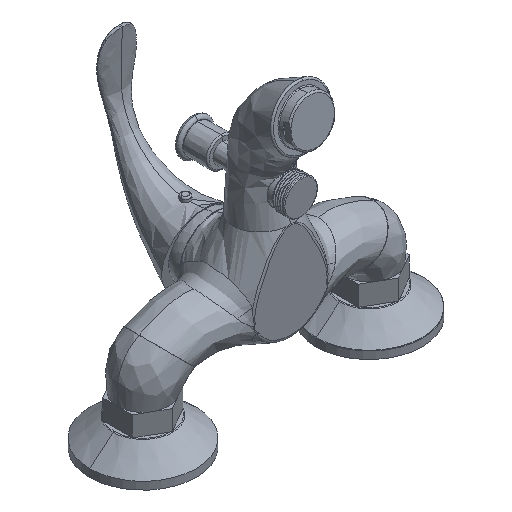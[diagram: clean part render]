
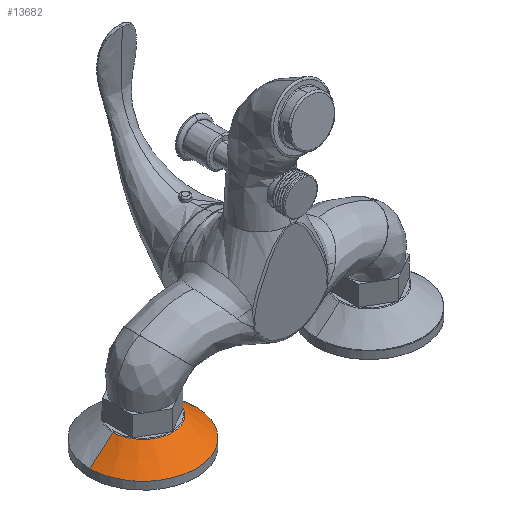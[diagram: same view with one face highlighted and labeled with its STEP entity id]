
A CAD part, isometric view. The second image highlights one B-rep face of the part: STEP entity #13682.
In plain terms, the highlighted conical face has half-angle 50 degrees and reference radius 19.053 mm.
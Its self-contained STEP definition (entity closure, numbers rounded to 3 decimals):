
#1647 = CARTESIAN_POINT ( 'NONE',  ( -182.831, 0., -13.234 ) ) ;
#2114 = AXIS2_PLACEMENT_3D ( 'NONE', #3919, #13086, #13031 ) ;
#2384 = DIRECTION ( 'NONE',  ( 0., 0., 1. ) ) ;
#2512 = EDGE_CURVE ( 'NONE', #2945, #14223, #5712, .T. ) ;
#2945 = VERTEX_POINT ( 'NONE', #1647 ) ;
#3444 = CARTESIAN_POINT ( 'NONE',  ( -198.045, 0., -26. ) ) ;
#3919 = CARTESIAN_POINT ( 'NONE',  ( -163.5, 0., -13. ) ) ;
#4006 = ORIENTED_EDGE ( 'NONE', *, *, #4499, .T. ) ;
#4104 = CARTESIAN_POINT ( 'NONE',  ( -144.447, 0., -13. ) ) ;
#4499 = EDGE_CURVE ( 'NONE', #14223, #9989, #9656, .T. ) ;
#4884 = DIRECTION ( 'NONE',  ( 0., 0., -1. ) ) ;
#5712 = LINE ( 'NONE', #14157, #12201 ) ;
#5734 = AXIS2_PLACEMENT_3D ( 'NONE', #11782, #4884, #12911 ) ;
#6189 = CONICAL_SURFACE ( 'NONE', #2114, 19.053, 0.873 ) ;
#8064 = LINE ( 'NONE', #4104, #13438 ) ;
#8183 = ORIENTED_EDGE ( 'NONE', *, *, #2512, .T. ) ;
#9252 = CARTESIAN_POINT ( 'NONE',  ( -163.5, 0., -26. ) ) ;
#9656 = CIRCLE ( 'NONE', #14189, 34.545 ) ;
#9989 = VERTEX_POINT ( 'NONE', #12404 ) ;
#10422 = DIRECTION ( 'NONE',  ( 1., 0., 0. ) ) ;
#10777 = ORIENTED_EDGE ( 'NONE', *, *, #11503, .F. ) ;
#11503 = EDGE_CURVE ( 'NONE', #13944, #9989, #8064, .T. ) ;
#11567 = EDGE_LOOP ( 'NONE', ( #11915, #8183, #4006, #10777 ) ) ;
#11782 = CARTESIAN_POINT ( 'NONE',  ( -163.5, 0., -13.234 ) ) ;
#11915 = ORIENTED_EDGE ( 'NONE', *, *, #14582, .T. ) ;
#12112 = CIRCLE ( 'NONE', #5734, 19.331 ) ;
#12135 = DIRECTION ( 'NONE',  ( 0.766, 0., -0.643 ) ) ;
#12201 = VECTOR ( 'NONE', #12827, 1000. ) ;
#12404 = CARTESIAN_POINT ( 'NONE',  ( -128.955, 0., -26. ) ) ;
#12614 = FACE_OUTER_BOUND ( 'NONE', #11567, .T. ) ;
#12827 = DIRECTION ( 'NONE',  ( -0.766, 0., -0.643 ) ) ;
#12911 = DIRECTION ( 'NONE',  ( -1., 0., 0. ) ) ;
#13031 = DIRECTION ( 'NONE',  ( 1., 0., 0. ) ) ;
#13071 = CARTESIAN_POINT ( 'NONE',  ( -144.169, 0., -13.234 ) ) ;
#13086 = DIRECTION ( 'NONE',  ( 0., 0., -1. ) ) ;
#13438 = VECTOR ( 'NONE', #12135, 1000. ) ;
#13682 = ADVANCED_FACE ( 'NONE', ( #12614 ), #6189, .T. ) ;
#13944 = VERTEX_POINT ( 'NONE', #13071 ) ;
#14157 = CARTESIAN_POINT ( 'NONE',  ( -182.553, 0., -13. ) ) ;
#14189 = AXIS2_PLACEMENT_3D ( 'NONE', #9252, #2384, #10422 ) ;
#14223 = VERTEX_POINT ( 'NONE', #3444 ) ;
#14582 = EDGE_CURVE ( 'NONE', #13944, #2945, #12112, .T. ) ;
